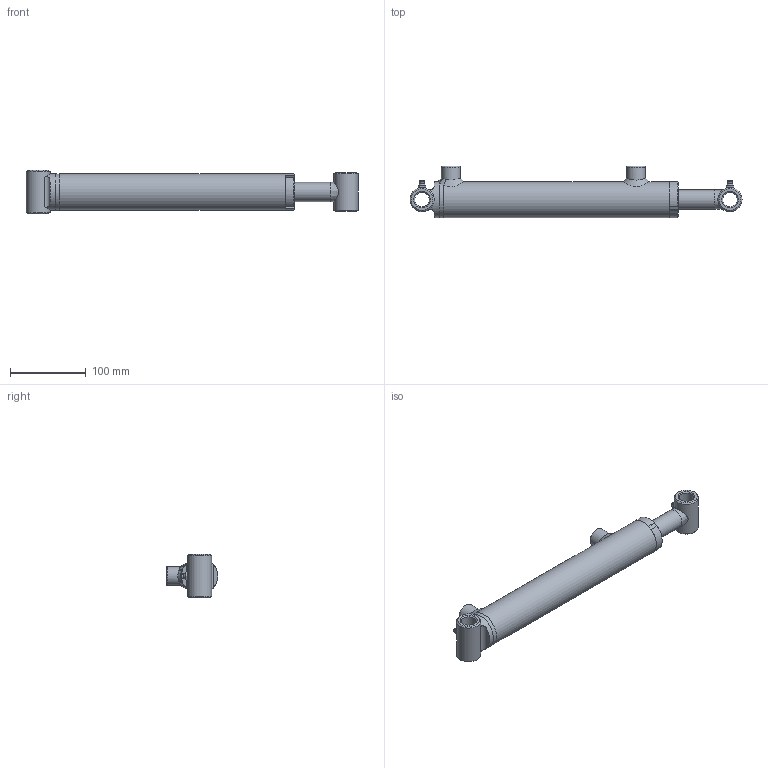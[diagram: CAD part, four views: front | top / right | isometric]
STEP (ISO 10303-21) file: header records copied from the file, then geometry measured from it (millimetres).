
FILE_DESCRIPTION(/* description */ (''),/* implementation_level */ '2;1');
FILE_NAME(/* name */ 'C:\01 - Philip\00 - Philip Rivard\01 - Contracts\Eagle Hydraulic Components\00 - 3D Cylinder\01 - Standard\HBU\HBU15XX\STEP Files\HBU1508.stp',/* time_stamp */ '2015-05-06T16:16:44-04:00',/* author */ ('Philip'),/* organization */ (''),/* preprocessor_version */ 'ST-DEVELOPER v16.1',/* originating_system */ 'Autodesk Inventor 2016',/* authorisation */ '');
FILE_SCHEMA (('AUTOMOTIVE_DESIGN { 1 0 10303 214 3 1 1 }'));
Length unit declared in the file: inch
Products named in the file (12): Tube_HBU_Welds; Tube; Straight_Port; ECP-15-HBU; Tube_HBU; Gland; Rod_HBU_Welds; Rod; Bushing; Rod_HBU; Grease Fitting 1-8; Cylinder_Assembly
Assembly tree (13 placements, depth 3):
  Cylinder_Assembly
    Tube_HBU
      Tube_HBU_Welds
      Tube
      Straight_Port  x2
      ECP-15-HBU
    Gland
    Rod_HBU
      Rod_HBU_Welds
      Rod
      Bushing
    Grease Fitting 1-8  x2
Bounding box: 438.15 x 67.62 x 57.2 mm (x, y, z)
Volume: 498320.6 mm3; surface area: 161804.4 mm2
Topology: 12 solids, 12 shells, 206 faces, 457 edges, 278 vertices
Faces by surface type: cone 65, plane 59, cylinder 53, torus 15, bspline 12, sphere 2
Full cylindrical faces by diameter (mm): 4 x2, 5 x1, 7.5 x2, 8 x2, 10 x2, 12.751 x2, 19.05 x2, 19.3 x2, 19.65 x1, 19.9 x1, 22 x1, 25 x4, 25.4 x2, 31.75 x2, 31.8 x1, 35 x1, 37.897 x1, 38.05 x1, 38.1 x1, 40 x1, 42 x2, 43 x1, 47.6 x1, 47.625 x1
Entity records: 6367 total; most frequent: CARTESIAN_POINT 2974, DIRECTION 666, ORIENTED_EDGE 538, AXIS2_PLACEMENT_3D 305, EDGE_LOOP 276, EDGE_CURVE 269, VERTEX_POINT 205, ADVANCED_FACE 166
